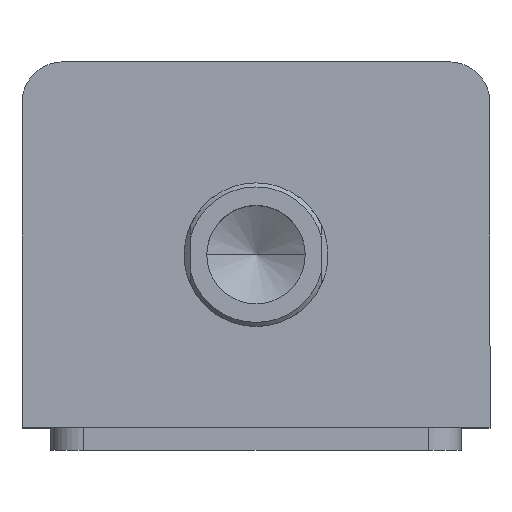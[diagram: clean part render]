
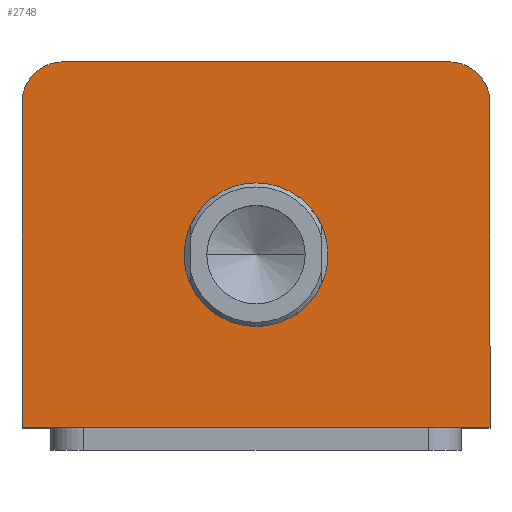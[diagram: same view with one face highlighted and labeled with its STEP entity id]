
A CAD part, top view. The second image highlights one B-rep face of the part: STEP entity #2748.
In plain terms, the highlighted planar face has unit normal (0, 0, 1).
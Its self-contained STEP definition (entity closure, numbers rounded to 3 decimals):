
#352 = FACE_BOUND ( 'NONE', #2099, .T. ) ;
#355 = FACE_OUTER_BOUND ( 'NONE', #2102, .T. ) ;
#657 = CARTESIAN_POINT ( 'NONE',  ( 47., 34.5, 142. ) ) ;
#658 = DIRECTION ( 'NONE',  ( 0., 0., 1. ) ) ;
#659 = DIRECTION ( 'NONE',  ( 1., 0., 0. ) ) ;
#694 = CARTESIAN_POINT ( 'NONE',  ( -47., 34.5, 142. ) ) ;
#695 = DIRECTION ( 'NONE',  ( 0., 0., 1. ) ) ;
#696 = DIRECTION ( 'NONE',  ( 1., 0., 0. ) ) ;
#704 = CARTESIAN_POINT ( 'NONE',  ( -57., 44.5, 142. ) ) ;
#705 = DIRECTION ( 'NONE',  ( 0., -1., 0. ) ) ;
#826 = CARTESIAN_POINT ( 'NONE',  ( -57., 44.5, 142. ) ) ;
#827 = DIRECTION ( 'NONE',  ( -1., 0., 0. ) ) ;
#937 = VERTEX_POINT ( 'NONE', #2580 ) ;
#1016 = CARTESIAN_POINT ( 'NONE',  ( 57., 44.5, 142. ) ) ;
#1017 = DIRECTION ( 'NONE',  ( 0., 1., 0. ) ) ;
#1233 = ORIENTED_EDGE ( 'NONE', *, *, #3459, .F. ) ;
#1234 = ORIENTED_EDGE ( 'NONE', *, *, #3457, .F. ) ;
#1235 = ORIENTED_EDGE ( 'NONE', *, *, #3554, .T. ) ;
#1236 = ORIENTED_EDGE ( 'NONE', *, *, #3584, .T. ) ;
#1237 = ORIENTED_EDGE ( 'NONE', *, *, #3589, .T. ) ;
#1238 = ORIENTED_EDGE ( 'NONE', *, *, #3466, .T. ) ;
#1239 = ORIENTED_EDGE ( 'NONE', *, *, #3481, .T. ) ;
#1240 = ORIENTED_EDGE ( 'NONE', *, *, #3572, .T. ) ;
#1339 = CARTESIAN_POINT ( 'NONE',  ( 0., -2.5, 142. ) ) ;
#1340 = DIRECTION ( 'NONE',  ( 0., 0., 1. ) ) ;
#1341 = DIRECTION ( 'NONE',  ( 1., 0., 0. ) ) ;
#1342 = CARTESIAN_POINT ( 'NONE',  ( 0., -2.5, 142. ) ) ;
#1343 = DIRECTION ( 'NONE',  ( 0., 0., 1. ) ) ;
#1344 = DIRECTION ( 'NONE',  ( 1., 0., 0. ) ) ;
#1354 = CARTESIAN_POINT ( 'NONE',  ( -57., -44.5, 142. ) ) ;
#1364 = DIRECTION ( 'NONE',  ( 1., 0., 0. ) ) ;
#1429 = VERTEX_POINT ( 'NONE', #2525 ) ;
#1440 = VERTEX_POINT ( 'NONE', #2536 ) ;
#1536 = VERTEX_POINT ( 'NONE', #3219 ) ;
#1538 = VERTEX_POINT ( 'NONE', #3220 ) ;
#1543 = VERTEX_POINT ( 'NONE', #3218 ) ;
#1546 = VERTEX_POINT ( 'NONE', #3225 ) ;
#1643 = CIRCLE ( 'NONE', #3091, 17.5 ) ;
#1646 = CIRCLE ( 'NONE', #3090, 17.5 ) ;
#1652 = LINE ( 'NONE', #1354, #1659 ) ;
#1659 = VECTOR ( 'NONE', #1364, 1000. ) ;
#1686 = LINE ( 'NONE', #1016, #1689 ) ;
#1689 = VECTOR ( 'NONE', #1017, 1000. ) ;
#1922 = PLANE ( 'NONE',  #3330 ) ;
#1924 = CARTESIAN_POINT ( 'NONE',  ( 0., 0., 142. ) ) ;
#1925 = DIRECTION ( 'NONE',  ( 0., 0., 1. ) ) ;
#1926 = DIRECTION ( 'NONE',  ( 1., 0., 0. ) ) ;
#2099 = EDGE_LOOP ( 'NONE', ( #1233, #1234 ) ) ;
#2102 = EDGE_LOOP ( 'NONE', ( #1235, #1236, #1237, #1238, #1239, #1240 ) ) ;
#2120 = VERTEX_POINT ( 'NONE', #3248 ) ;
#2525 = CARTESIAN_POINT ( 'NONE',  ( -47., 44.5, 142. ) ) ;
#2536 = CARTESIAN_POINT ( 'NONE',  ( -57., 34.5, 142. ) ) ;
#2580 = CARTESIAN_POINT ( 'NONE',  ( -57., -44.5, 142. ) ) ;
#2598 = AXIS2_PLACEMENT_3D ( 'NONE', #657, #658, #659 ) ;
#2624 = AXIS2_PLACEMENT_3D ( 'NONE', #694, #695, #696 ) ;
#2748 = ADVANCED_FACE ( 'NONE', ( #352, #355 ), #1922, .T. ) ;
#2909 = LINE ( 'NONE', #826, #2912 ) ;
#2912 = VECTOR ( 'NONE', #827, 1000. ) ;
#2931 = CIRCLE ( 'NONE', #2598, 10. ) ;
#2945 = CIRCLE ( 'NONE', #2624, 10. ) ;
#2953 = LINE ( 'NONE', #704, #2956 ) ;
#2956 = VECTOR ( 'NONE', #705, 1000. ) ;
#3090 = AXIS2_PLACEMENT_3D ( 'NONE', #1342, #1343, #1344 ) ;
#3091 = AXIS2_PLACEMENT_3D ( 'NONE', #1339, #1340, #1341 ) ;
#3218 = CARTESIAN_POINT ( 'NONE',  ( -17.5, -2.5, 142. ) ) ;
#3219 = CARTESIAN_POINT ( 'NONE',  ( 57., -44.5, 142. ) ) ;
#3220 = CARTESIAN_POINT ( 'NONE',  ( 17.5, -2.5, 142. ) ) ;
#3225 = CARTESIAN_POINT ( 'NONE',  ( 47., 44.5, 142. ) ) ;
#3248 = CARTESIAN_POINT ( 'NONE',  ( 57., 34.5, 142. ) ) ;
#3330 = AXIS2_PLACEMENT_3D ( 'NONE', #1924, #1925, #1926 ) ;
#3457 = EDGE_CURVE ( 'NONE', #1543, #1538, #1643, .T. ) ;
#3459 = EDGE_CURVE ( 'NONE', #1538, #1543, #1646, .T. ) ;
#3466 = EDGE_CURVE ( 'NONE', #937, #1536, #1652, .T. ) ;
#3481 = EDGE_CURVE ( 'NONE', #1536, #2120, #1686, .T. ) ;
#3554 = EDGE_CURVE ( 'NONE', #1546, #1429, #2909, .T. ) ;
#3572 = EDGE_CURVE ( 'NONE', #2120, #1546, #2931, .T. ) ;
#3584 = EDGE_CURVE ( 'NONE', #1429, #1440, #2945, .T. ) ;
#3589 = EDGE_CURVE ( 'NONE', #1440, #937, #2953, .T. ) ;
